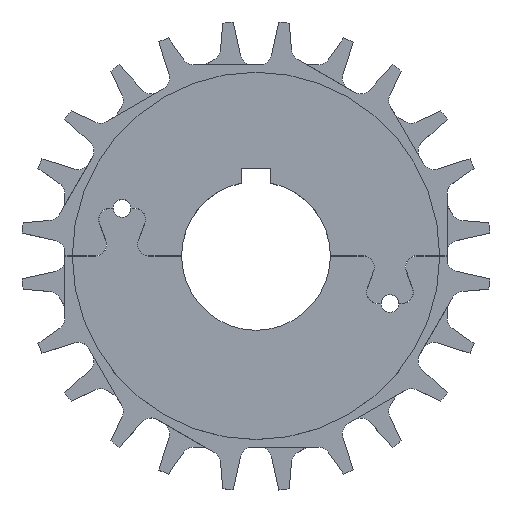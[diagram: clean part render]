
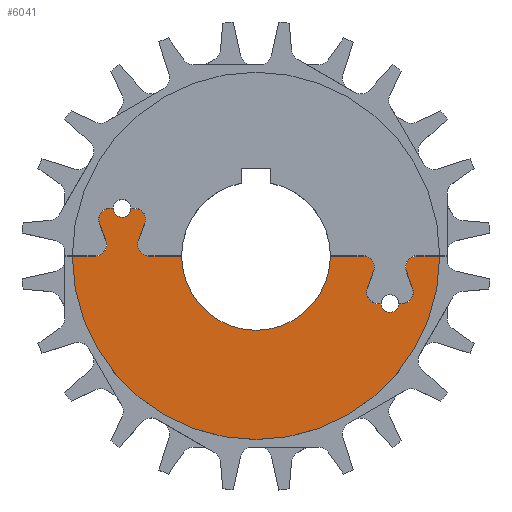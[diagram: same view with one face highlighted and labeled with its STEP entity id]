
A CAD part, top view. The second image highlights one B-rep face of the part: STEP entity #6041.
In plain terms, the highlighted planar face has unit normal (0, 0, 1).
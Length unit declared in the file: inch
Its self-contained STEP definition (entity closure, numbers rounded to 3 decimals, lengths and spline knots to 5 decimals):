
#3877=CARTESIAN_POINT('',(0.,0.,0.49));
#3878=DIRECTION('',(0.,0.,1.));
#3879=DIRECTION('',(1.,0.001,0.));
#3880=AXIS2_PLACEMENT_3D('',#3877,#3878,#3879);
#4090=DIRECTION('',(-1.,0.,0.));
#4091=VECTOR('',#4090,0.275);
#4092=CARTESIAN_POINT('',(0.9,0.001,0.49));
#4093=LINE('',#4092,#4091);
#4094=CARTESIAN_POINT('',(0.,0.,0.49));
#4095=DIRECTION('',(0.,0.,1.));
#4096=DIRECTION('',(1.,0.002,0.));
#4097=AXIS2_PLACEMENT_3D('',#4094,#4095,#4096);
#4099=DIRECTION('',(-1.,0.,0.));
#4100=VECTOR('',#4099,0.275);
#4101=CARTESIAN_POINT('',(-0.625,0.001,0.49));
#4102=LINE('',#4101,#4100);
#4103=CARTESIAN_POINT('',(-0.9,0.094,0.49));
#4104=DIRECTION('',(0.,0.,1.));
#4105=DIRECTION('',(-0.94,0.342,0.));
#4106=AXIS2_PLACEMENT_3D('',#4103,#4104,#4105);
#4108=DIRECTION('',(0.342,0.94,0.));
#4109=VECTOR('',#4108,0.15718);
#4110=CARTESIAN_POINT('',(-0.98739,0.12581,0.49));
#4111=LINE('',#4110,#4109);
#4112=CARTESIAN_POINT('',(-1.0229,0.306,0.49));
#4113=DIRECTION('',(0.,0.,1.));
#4114=DIRECTION('',(0.94,-0.342,0.));
#4115=AXIS2_PLACEMENT_3D('',#4112,#4113,#4114);
#4117=DIRECTION('',(-1.,0.,0.));
#4118=VECTOR('',#4117,0.02735);
#4119=CARTESIAN_POINT('',(-1.0229,0.401,0.49));
#4120=LINE('',#4119,#4118);
#4121=CARTESIAN_POINT('',(-1.125,0.4,0.49));
#4122=DIRECTION('',(0.,0.,1.));
#4123=DIRECTION('',(1.,0.013,0.));
#4124=AXIS2_PLACEMENT_3D('',#4121,#4122,#4123);
#4126=DIRECTION('',(-1.,0.,0.));
#4127=VECTOR('',#4126,0.02735);
#4128=CARTESIAN_POINT('',(-1.19974,0.401,0.49));
#4129=LINE('',#4128,#4127);
#4130=CARTESIAN_POINT('',(-1.2271,0.306,0.49));
#4131=DIRECTION('',(0.,0.,1.));
#4132=DIRECTION('',(0.,1.,0.));
#4133=AXIS2_PLACEMENT_3D('',#4130,#4131,#4132);
#4135=DIRECTION('',(0.342,-0.94,0.));
#4136=VECTOR('',#4135,0.15718);
#4137=CARTESIAN_POINT('',(-1.31637,0.27351,0.49));
#4138=LINE('',#4137,#4136);
#4139=CARTESIAN_POINT('',(-1.35,0.094,0.49));
#4140=DIRECTION('',(0.,0.,1.));
#4141=DIRECTION('',(0.,-1.,0.));
#4142=AXIS2_PLACEMENT_3D('',#4139,#4140,#4141);
#4144=DIRECTION('',(1.,0.,0.));
#4145=VECTOR('',#4144,0.19286);
#4146=CARTESIAN_POINT('',(-1.54286,0.001,0.49));
#4147=LINE('',#4146,#4145);
#4148=DIRECTION('',(-1.,0.,0.));
#4149=VECTOR('',#4148,0.19286);
#4150=CARTESIAN_POINT('',(1.54286,0.001,0.49));
#4151=LINE('',#4150,#4149);
#4152=CARTESIAN_POINT('',(1.35,-0.094,0.49));
#4153=DIRECTION('',(0.,0.,1.));
#4154=DIRECTION('',(0.,1.,0.));
#4155=AXIS2_PLACEMENT_3D('',#4152,#4153,#4154);
#4157=DIRECTION('',(0.342,-0.94,0.));
#4158=VECTOR('',#4157,0.15718);
#4159=CARTESIAN_POINT('',(1.26073,-0.12649,0.49));
#4160=LINE('',#4159,#4158);
#4161=CARTESIAN_POINT('',(1.2271,-0.306,0.49));
#4162=DIRECTION('',(0.,0.,1.));
#4163=DIRECTION('',(0.,-1.,0.));
#4164=AXIS2_PLACEMENT_3D('',#4161,#4162,#4163);
#4166=DIRECTION('',(-1.,0.,0.));
#4167=VECTOR('',#4166,0.02735);
#4168=CARTESIAN_POINT('',(1.2271,-0.399,0.49));
#4169=LINE('',#4168,#4167);
#4170=CARTESIAN_POINT('',(1.125,-0.4,0.49));
#4171=DIRECTION('',(0.,0.,1.));
#4172=DIRECTION('',(1.,0.013,0.));
#4173=AXIS2_PLACEMENT_3D('',#4170,#4171,#4172);
#4175=DIRECTION('',(-1.,0.,0.));
#4176=VECTOR('',#4175,0.02735);
#4177=CARTESIAN_POINT('',(1.05026,-0.399,0.49));
#4178=LINE('',#4177,#4176);
#4179=CARTESIAN_POINT('',(1.0229,-0.306,0.49));
#4180=DIRECTION('',(0.,0.,1.));
#4181=DIRECTION('',(-0.94,0.342,0.));
#4182=AXIS2_PLACEMENT_3D('',#4179,#4180,#4181);
#4184=DIRECTION('',(0.342,0.94,0.));
#4185=VECTOR('',#4184,0.15718);
#4186=CARTESIAN_POINT('',(0.93551,-0.27419,0.49));
#4187=LINE('',#4186,#4185);
#4188=CARTESIAN_POINT('',(0.9,-0.094,0.49));
#4189=DIRECTION('',(0.,0.,1.));
#4190=DIRECTION('',(0.94,-0.342,0.));
#4191=AXIS2_PLACEMENT_3D('',#4188,#4189,#4190);
#5404=CARTESIAN_POINT('',(1.54286,0.001,0.49));
#5405=CARTESIAN_POINT('',(1.35,0.001,0.49));
#5406=VERTEX_POINT('',#5404);
#5407=VERTEX_POINT('',#5405);
#5408=CARTESIAN_POINT('',(1.26073,-0.12649,0.49));
#5409=VERTEX_POINT('',#5408);
#5410=CARTESIAN_POINT('',(1.31449,-0.27419,0.49));
#5411=VERTEX_POINT('',#5410);
#5412=CARTESIAN_POINT('',(1.2271,-0.399,0.49));
#5413=VERTEX_POINT('',#5412);
#5414=CARTESIAN_POINT('',(0.93551,-0.27419,0.49));
#5415=CARTESIAN_POINT('',(1.0229,-0.399,0.49));
#5416=VERTEX_POINT('',#5414);
#5417=VERTEX_POINT('',#5415);
#5418=CARTESIAN_POINT('',(0.98927,-0.12649,0.49));
#5419=VERTEX_POINT('',#5418);
#5420=CARTESIAN_POINT('',(0.9,0.001,0.49));
#5421=VERTEX_POINT('',#5420);
#5422=CARTESIAN_POINT('',(-0.98739,0.12581,0.49));
#5423=CARTESIAN_POINT('',(-0.9,0.001,0.49));
#5424=VERTEX_POINT('',#5422);
#5425=VERTEX_POINT('',#5423);
#5426=CARTESIAN_POINT('',(-0.93363,0.27351,0.49));
#5427=VERTEX_POINT('',#5426);
#5428=CARTESIAN_POINT('',(-1.0229,0.401,0.49));
#5429=VERTEX_POINT('',#5428);
#5430=CARTESIAN_POINT('',(-1.2271,0.401,0.49));
#5431=CARTESIAN_POINT('',(-1.31637,0.27351,0.49));
#5432=VERTEX_POINT('',#5430);
#5433=VERTEX_POINT('',#5431);
#5434=CARTESIAN_POINT('',(-1.26261,0.12581,0.49));
#5435=VERTEX_POINT('',#5434);
#5436=CARTESIAN_POINT('',(-1.35,0.001,0.49));
#5437=VERTEX_POINT('',#5436);
#5438=CARTESIAN_POINT('',(-1.54286,0.001,0.49));
#5439=VERTEX_POINT('',#5438);
#5472=CARTESIAN_POINT('',(1.19974,-0.399,0.49));
#5473=CARTESIAN_POINT('',(1.05026,-0.399,0.49));
#5474=VERTEX_POINT('',#5472);
#5475=VERTEX_POINT('',#5473);
#5480=CARTESIAN_POINT('',(-1.05026,0.401,0.49));
#5481=CARTESIAN_POINT('',(-1.19974,0.401,0.49));
#5482=VERTEX_POINT('',#5480);
#5483=VERTEX_POINT('',#5481);
#5572=CARTESIAN_POINT('',(0.625,0.001,0.49));
#5573=VERTEX_POINT('',#5572);
#5574=CARTESIAN_POINT('',(-0.625,0.001,0.49));
#5575=VERTEX_POINT('',#5574);
#5989=CARTESIAN_POINT('',(0.,0.,0.49));
#5990=DIRECTION('',(0.,0.,1.));
#5991=DIRECTION('',(-0.866,-0.5,0.));
#5992=AXIS2_PLACEMENT_3D('',#5989,#5990,#5991);
#5993=PLANE('',#5992);
#5995=ORIENTED_EDGE('',*,*,#5994,.T.);
#5997=ORIENTED_EDGE('',*,*,#5996,.T.);
#5999=ORIENTED_EDGE('',*,*,#5998,.T.);
#6001=ORIENTED_EDGE('',*,*,#6000,.F.);
#6003=ORIENTED_EDGE('',*,*,#6002,.T.);
#6005=ORIENTED_EDGE('',*,*,#6004,.T.);
#6007=ORIENTED_EDGE('',*,*,#6006,.T.);
#6009=ORIENTED_EDGE('',*,*,#6008,.T.);
#6011=ORIENTED_EDGE('',*,*,#6010,.T.);
#6013=ORIENTED_EDGE('',*,*,#6012,.T.);
#6015=ORIENTED_EDGE('',*,*,#6014,.T.);
#6017=ORIENTED_EDGE('',*,*,#6016,.F.);
#6018=ORIENTED_EDGE('',*,*,#5975,.F.);
#6019=ORIENTED_EDGE('',*,*,#5676,.F.);
#6020=ORIENTED_EDGE('',*,*,#5699,.T.);
#6022=ORIENTED_EDGE('',*,*,#6021,.T.);
#6024=ORIENTED_EDGE('',*,*,#6023,.T.);
#6026=ORIENTED_EDGE('',*,*,#6025,.F.);
#6028=ORIENTED_EDGE('',*,*,#6027,.T.);
#6030=ORIENTED_EDGE('',*,*,#6029,.T.);
#6032=ORIENTED_EDGE('',*,*,#6031,.T.);
#6034=ORIENTED_EDGE('',*,*,#6033,.F.);
#6036=ORIENTED_EDGE('',*,*,#6035,.T.);
#6038=ORIENTED_EDGE('',*,*,#6037,.T.);
#6039=EDGE_LOOP('',(#5995,#5997,#5999,#6001,#6003,#6005,#6007,#6009,#6011,#6013,
#6015,#6017,#6018,#6019,#6020,#6022,#6024,#6026,#6028,#6030,#6032,#6034,#6036,
#6038));
#6040=FACE_OUTER_BOUND('',#6039,.F.);
#6041=ADVANCED_FACE('',(#6040),#5993,.T.);
#3881=CIRCLE('',#3880,1.54286);
#4098=CIRCLE('',#4097,0.625);
#4107=CIRCLE('',#4106,0.093);
#4116=CIRCLE('',#4115,0.095);
#4125=CIRCLE('',#4124,0.07475);
#4134=CIRCLE('',#4133,0.095);
#4143=CIRCLE('',#4142,0.093);
#4156=CIRCLE('',#4155,0.095);
#4165=CIRCLE('',#4164,0.093);
#4174=CIRCLE('',#4173,0.07475);
#4183=CIRCLE('',#4182,0.093);
#4192=CIRCLE('',#4191,0.095);
#5676=EDGE_CURVE('',#5406,#5439,#3881,.T.);
#5699=EDGE_CURVE('',#5406,#5407,#4151,.T.);
#5975=EDGE_CURVE('',#5439,#5437,#4147,.T.);
#5994=EDGE_CURVE('',#5421,#5573,#4093,.T.);
#5996=EDGE_CURVE('',#5573,#5575,#4098,.T.);
#5998=EDGE_CURVE('',#5575,#5425,#4102,.T.);
#6000=EDGE_CURVE('',#5424,#5425,#4107,.T.);
#6002=EDGE_CURVE('',#5424,#5427,#4111,.T.);
#6004=EDGE_CURVE('',#5427,#5429,#4116,.T.);
#6006=EDGE_CURVE('',#5429,#5482,#4120,.T.);
#6008=EDGE_CURVE('',#5482,#5483,#4125,.T.);
#6010=EDGE_CURVE('',#5483,#5432,#4129,.T.);
#6012=EDGE_CURVE('',#5432,#5433,#4134,.T.);
#6014=EDGE_CURVE('',#5433,#5435,#4138,.T.);
#6016=EDGE_CURVE('',#5437,#5435,#4143,.T.);
#6021=EDGE_CURVE('',#5407,#5409,#4156,.T.);
#6023=EDGE_CURVE('',#5409,#5411,#4160,.T.);
#6025=EDGE_CURVE('',#5413,#5411,#4165,.T.);
#6027=EDGE_CURVE('',#5413,#5474,#4169,.T.);
#6029=EDGE_CURVE('',#5474,#5475,#4174,.T.);
#6031=EDGE_CURVE('',#5475,#5417,#4178,.T.);
#6033=EDGE_CURVE('',#5416,#5417,#4183,.T.);
#6035=EDGE_CURVE('',#5416,#5419,#4187,.T.);
#6037=EDGE_CURVE('',#5419,#5421,#4192,.T.);
